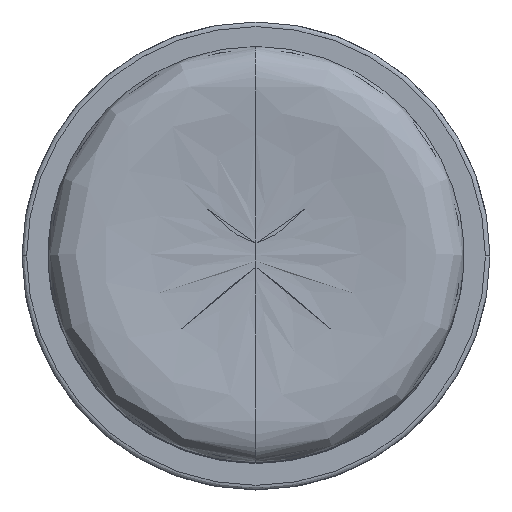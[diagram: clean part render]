
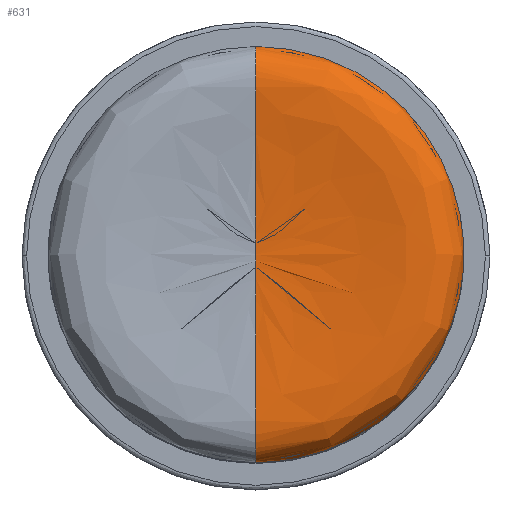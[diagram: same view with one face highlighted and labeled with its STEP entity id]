
A CAD part, top view. The second image highlights one B-rep face of the part: STEP entity #631.
In plain terms, the highlighted free-form (B-spline) face has degree [3, 2] with [6, 5] control points.
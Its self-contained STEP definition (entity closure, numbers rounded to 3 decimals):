
#4 = CARTESIAN_POINT ( 'NONE',  ( -441.898, -919.987, 733. ) ) ;
#8 = CARTESIAN_POINT ( 'NONE',  ( -355.702, -653.807, 750. ) ) ;
#16 = CARTESIAN_POINT ( 'NONE',  ( -441.898, -879.19, 761.961 ) ) ;
#28 = CARTESIAN_POINT ( 'NONE',  ( -441.898, -920.219, 739.165 ) ) ;
#69 =( BOUNDED_CURVE ( )  B_SPLINE_CURVE ( 3, ( #481, #1079, #948, #251, #28, #4 ),
 .UNSPECIFIED., .F., .T. ) 
 B_SPLINE_CURVE_WITH_KNOTS ( ( 4, 1, 1, 4 ),
 ( 0., 0.343, 0.685, 1. ),
 .UNSPECIFIED. ) 
 CURVE ( )  GEOMETRIC_REPRESENTATION_ITEM ( )  RATIONAL_B_SPLINE_CURVE ( ( 1., 1., 1., 1., 1., 1. ) ) 
 REPRESENTATION_ITEM ( '' )  );
#107 = CARTESIAN_POINT ( 'NONE',  ( -441.898, -560.017, 733. ) ) ;
#117 = CARTESIAN_POINT ( 'NONE',  ( -441.898, -826.198, 750. ) ) ;
#140 = VERTEX_POINT ( 'NONE', #1322 ) ;
#181 = CARTESIAN_POINT ( 'NONE',  ( -441.898, -560.017, 733. ) ) ;
#216 = CARTESIAN_POINT ( 'NONE',  ( -261.681, -740.002, 739.165 ) ) ;
#225 = FACE_OUTER_BOUND ( 'NONE', #691, .T. ) ;
#251 = CARTESIAN_POINT ( 'NONE',  ( -441.898, -915.215, 753.801 ) ) ;
#343 = CARTESIAN_POINT ( 'NONE',  ( -266.685, -740.002, 753.801 ) ) ;
#360 = CARTESIAN_POINT ( 'NONE',  ( -441.898, -653.807, 750. ) ) ;
#451 = CARTESIAN_POINT ( 'NONE',  ( -261.913, -740.002, 733. ) ) ;
#469 = CARTESIAN_POINT ( 'NONE',  ( -441.898, -740.002, 750. ) ) ;
#477 = CARTESIAN_POINT ( 'NONE',  ( -441.898, -600.814, 761.961 ) ) ;
#481 = CARTESIAN_POINT ( 'NONE',  ( -441.898, -740.002, 750. ) ) ;
#484 = CARTESIAN_POINT ( 'NONE',  ( -441.898, -740.002, 750. ) ) ;
#500 = CARTESIAN_POINT ( 'NONE',  ( -441.898, -740.002, 750. ) ) ;
#558 = CARTESIAN_POINT ( 'NONE',  ( -441.898, -559.785, 739.165 ) ) ;
#569 = CARTESIAN_POINT ( 'NONE',  ( -261.681, -920.219, 739.165 ) ) ;
#576 = CARTESIAN_POINT ( 'NONE',  ( -441.898, -564.789, 753.801 ) ) ;
#583 = CARTESIAN_POINT ( 'NONE',  ( -302.71, -600.814, 761.961 ) ) ;
#590 = CARTESIAN_POINT ( 'NONE',  ( -266.685, -564.789, 753.801 ) ) ;
#631 = ADVANCED_FACE ( 'NONE', ( #225 ), #1109, .F. ) ;
#653 = CARTESIAN_POINT ( 'NONE',  ( -261.913, -560.017, 733. ) ) ;
#658 = ORIENTED_EDGE ( 'NONE', *, *, #1337, .T. ) ;
#659 = CARTESIAN_POINT ( 'NONE',  ( -441.898, -560.017, 733. ) ) ;
#675 = CARTESIAN_POINT ( 'NONE',  ( -441.898, -600.814, 761.961 ) ) ;
#681 = CARTESIAN_POINT ( 'NONE',  ( -441.898, -919.987, 733. ) ) ;
#690 = CARTESIAN_POINT ( 'NONE',  ( -261.913, -560.017, 733. ) ) ;
#691 = EDGE_LOOP ( 'NONE', ( #1374, #1291, #658 ) ) ;
#698 = CARTESIAN_POINT ( 'NONE',  ( -302.71, -879.19, 761.961 ) ) ;
#706 = CARTESIAN_POINT ( 'NONE',  ( -261.913, -740.002, 733. ) ) ;
#813 = CARTESIAN_POINT ( 'NONE',  ( -441.898, -919.987, 733. ) ) ;
#814 = CARTESIAN_POINT ( 'NONE',  ( -441.898, -564.789, 753.801 ) ) ;
#860 = EDGE_CURVE ( 'NONE', #882, #140, #69, .T. ) ;
#882 = VERTEX_POINT ( 'NONE', #500 ) ;
#898 =( BOUNDED_CURVE ( )  B_SPLINE_CURVE ( 2, ( #181, #653, #451, #1042, #813 ),
 .UNSPECIFIED., .F., .T. ) 
 B_SPLINE_CURVE_WITH_KNOTS ( ( 3, 2, 3 ),
 ( 0., 0.5, 1. ),
 .UNSPECIFIED. ) 
 CURVE ( )  GEOMETRIC_REPRESENTATION_ITEM ( )  RATIONAL_B_SPLINE_CURVE ( ( 1., 0.707, 1., 0.707, 1. ) ) 
 REPRESENTATION_ITEM ( '' )  );
#943 = CARTESIAN_POINT ( 'NONE',  ( -441.898, -740.002, 750. ) ) ;
#948 = CARTESIAN_POINT ( 'NONE',  ( -441.898, -879.19, 761.961 ) ) ;
#953 = CARTESIAN_POINT ( 'NONE',  ( -441.898, -740.002, 750. ) ) ;
#1005 = VERTEX_POINT ( 'NONE', #659 ) ;
#1042 = CARTESIAN_POINT ( 'NONE',  ( -261.913, -919.987, 733. ) ) ;
#1043 = CARTESIAN_POINT ( 'NONE',  ( -266.685, -915.215, 753.801 ) ) ;
#1049 = CARTESIAN_POINT ( 'NONE',  ( -441.898, -653.807, 750. ) ) ;
#1050 = CARTESIAN_POINT ( 'NONE',  ( -441.898, -559.785, 739.165 ) ) ;
#1057 = CARTESIAN_POINT ( 'NONE',  ( -355.702, -826.198, 750. ) ) ;
#1062 =( BOUNDED_CURVE ( )  B_SPLINE_CURVE ( 3, ( #107, #558, #576, #675, #1049, #1410 ),
 .UNSPECIFIED., .F., .F. ) 
 B_SPLINE_CURVE_WITH_KNOTS ( ( 4, 1, 1, 4 ),
 ( 0., 0.315, 0.657, 1. ),
 .UNSPECIFIED. ) 
 CURVE ( )  GEOMETRIC_REPRESENTATION_ITEM ( )  RATIONAL_B_SPLINE_CURVE ( ( 1., 1., 1., 1., 1., 1. ) ) 
 REPRESENTATION_ITEM ( '' )  );
#1067 = CARTESIAN_POINT ( 'NONE',  ( -355.702, -740.002, 750. ) ) ;
#1075 = CARTESIAN_POINT ( 'NONE',  ( -441.898, -920.219, 739.165 ) ) ;
#1079 = CARTESIAN_POINT ( 'NONE',  ( -441.898, -826.198, 750. ) ) ;
#1109 =( BOUNDED_SURFACE ( )  B_SPLINE_SURFACE ( 3, 2, ( 
 ( #681, #1515, #706, #690, #1272 ),
 ( #1075, #569, #216, #1164, #1050 ),
 ( #1402, #1043, #343, #590, #814 ),
 ( #16, #698, #1182, #583, #477 ),
 ( #117, #1057, #1067, #8, #360 ),
 ( #484, #1524, #953, #469, #943 ) ),
 .UNSPECIFIED., .F., .F., .F. ) 
 B_SPLINE_SURFACE_WITH_KNOTS ( ( 4, 1, 1, 4 ),
 ( 3, 2, 3 ),
 ( 0., 60.979, 127.353, 193.726 ),
 ( 0., 282.743, 565.486 ),
 .UNSPECIFIED. ) 
 GEOMETRIC_REPRESENTATION_ITEM ( )  RATIONAL_B_SPLINE_SURFACE ( (
 ( 1., 0.707, 1., 0.707, 1.),
 ( 1., 0.707, 1., 0.707, 1.),
 ( 1., 0.707, 1., 0.707, 1.),
 ( 1., 0.707, 1., 0.707, 1.),
 ( 1., 0.707, 1., 0.707, 1.),
 ( 1., 0.707, 1., 0.707, 1.) ) ) 
 REPRESENTATION_ITEM ( '' )  SURFACE ( )  );
#1164 = CARTESIAN_POINT ( 'NONE',  ( -261.681, -559.785, 739.165 ) ) ;
#1181 = EDGE_CURVE ( 'NONE', #1005, #140, #898, .T. ) ;
#1182 = CARTESIAN_POINT ( 'NONE',  ( -302.71, -740.002, 761.961 ) ) ;
#1272 = CARTESIAN_POINT ( 'NONE',  ( -441.898, -560.017, 733. ) ) ;
#1291 = ORIENTED_EDGE ( 'NONE', *, *, #1181, .F. ) ;
#1322 = CARTESIAN_POINT ( 'NONE',  ( -441.898, -919.987, 733. ) ) ;
#1337 = EDGE_CURVE ( 'NONE', #1005, #882, #1062, .T. ) ;
#1374 = ORIENTED_EDGE ( 'NONE', *, *, #860, .T. ) ;
#1402 = CARTESIAN_POINT ( 'NONE',  ( -441.898, -915.215, 753.801 ) ) ;
#1410 = CARTESIAN_POINT ( 'NONE',  ( -441.898, -740.002, 750. ) ) ;
#1515 = CARTESIAN_POINT ( 'NONE',  ( -261.913, -919.987, 733. ) ) ;
#1524 = CARTESIAN_POINT ( 'NONE',  ( -441.898, -740.002, 750. ) ) ;
